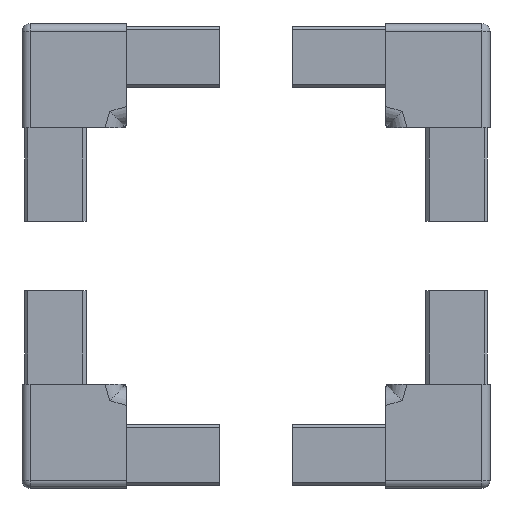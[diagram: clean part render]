
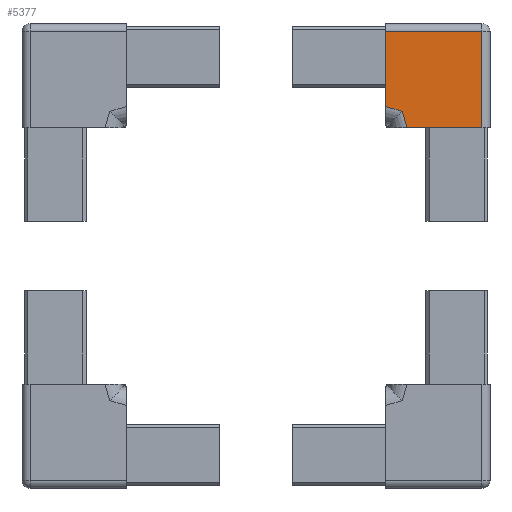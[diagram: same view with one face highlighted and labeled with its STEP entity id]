
A CAD part, left-side view. The second image highlights one B-rep face of the part: STEP entity #5377.
In plain terms, the highlighted planar face has unit normal (-1, 0, 0) as drawn and (0, 0, -1) by its records, which use the part's own axes.
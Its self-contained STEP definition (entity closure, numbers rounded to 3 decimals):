
#108 = LINE ( 'NONE', #6447, #1028 ) ;
#170 = PLANE ( 'NONE',  #4386 ) ;
#255 = EDGE_CURVE ( 'NONE', #866, #1520, #6558, .T. ) ;
#257 = DIRECTION ( 'NONE',  ( 1., 0., 0. ) ) ;
#556 = CARTESIAN_POINT ( 'NONE',  ( 26.5, 9.5, -12.5 ) ) ;
#588 = DIRECTION ( 'NONE',  ( 0., 1., 0. ) ) ;
#666 = CARTESIAN_POINT ( 'NONE',  ( -9.5, 12.5, -12.5 ) ) ;
#702 = CARTESIAN_POINT ( 'NONE',  ( 20.381, -20.381, -12.5 ) ) ;
#778 = ORIENTED_EDGE ( 'NONE', *, *, #5247, .T. ) ;
#785 = VERTEX_POINT ( 'NONE', #2185 ) ;
#866 = VERTEX_POINT ( 'NONE', #702 ) ;
#892 = DIRECTION ( 'NONE',  ( 0.295, 0.955, 0. ) ) ;
#967 = EDGE_CURVE ( 'NONE', #785, #866, #4107, .T. ) ;
#1028 = VECTOR ( 'NONE', #588, 1000. ) ;
#1044 = VECTOR ( 'NONE', #892, 1000. ) ;
#1179 = VERTEX_POINT ( 'NONE', #556 ) ;
#1336 = ORIENTED_EDGE ( 'NONE', *, *, #967, .F. ) ;
#1353 = ORIENTED_EDGE ( 'NONE', *, *, #255, .F. ) ;
#1368 = DIRECTION ( 'NONE',  ( 0.955, 0.295, 0. ) ) ;
#1520 = VERTEX_POINT ( 'NONE', #3630 ) ;
#1572 = DIRECTION ( 'NONE',  ( -1., 0., 0. ) ) ;
#1607 = ORIENTED_EDGE ( 'NONE', *, *, #2122, .T. ) ;
#1636 = CARTESIAN_POINT ( 'NONE',  ( 26.5, -26.5, -12.5 ) ) ;
#1821 = LINE ( 'NONE', #1890, #2850 ) ;
#1890 = CARTESIAN_POINT ( 'NONE',  ( 26.5, 9.5, -12.5 ) ) ;
#2070 = CARTESIAN_POINT ( 'NONE',  ( -9.5, -26.5, -12.5 ) ) ;
#2122 = EDGE_CURVE ( 'NONE', #5990, #2787, #6369, .T. ) ;
#2185 = CARTESIAN_POINT ( 'NONE',  ( 18.49, -26.5, -12.5 ) ) ;
#2430 = CARTESIAN_POINT ( 'NONE',  ( 18.49, -26.5, -12.5 ) ) ;
#2469 = CARTESIAN_POINT ( 'NONE',  ( 20.381, -20.381, -12.5 ) ) ;
#2752 = DIRECTION ( 'NONE',  ( 0., 1., 0. ) ) ;
#2768 = DIRECTION ( 'NONE',  ( 0., 0., -1. ) ) ;
#2777 = EDGE_LOOP ( 'NONE', ( #1336, #778, #1607, #4573, #2779, #1353 ) ) ;
#2779 = ORIENTED_EDGE ( 'NONE', *, *, #6517, .F. ) ;
#2787 = VERTEX_POINT ( 'NONE', #6219 ) ;
#2850 = VECTOR ( 'NONE', #257, 1000. ) ;
#3048 = LINE ( 'NONE', #5229, #4820 ) ;
#3630 = CARTESIAN_POINT ( 'NONE',  ( 26.5, -18.49, -12.5 ) ) ;
#4107 = LINE ( 'NONE', #2430, #1044 ) ;
#4386 = AXIS2_PLACEMENT_3D ( 'NONE', #1636, #2768, #6347 ) ;
#4573 = ORIENTED_EDGE ( 'NONE', *, *, #4793, .T. ) ;
#4793 = EDGE_CURVE ( 'NONE', #2787, #1179, #1821, .T. ) ;
#4812 = FACE_OUTER_BOUND ( 'NONE', #2777, .T. ) ;
#4820 = VECTOR ( 'NONE', #1572, 1000. ) ;
#5229 = CARTESIAN_POINT ( 'NONE',  ( 26.5, -26.5, -12.5 ) ) ;
#5247 = EDGE_CURVE ( 'NONE', #785, #5990, #3048, .T. ) ;
#5377 = ADVANCED_FACE ( 'NONE', ( #4812 ), #170, .T. ) ;
#5957 = VECTOR ( 'NONE', #1368, 1000. ) ;
#5990 = VERTEX_POINT ( 'NONE', #2070 ) ;
#6219 = CARTESIAN_POINT ( 'NONE',  ( -9.5, 9.5, -12.5 ) ) ;
#6347 = DIRECTION ( 'NONE',  ( -1., 0., 0. ) ) ;
#6369 = LINE ( 'NONE', #666, #6465 ) ;
#6447 = CARTESIAN_POINT ( 'NONE',  ( 26.5, -26.5, -12.5 ) ) ;
#6465 = VECTOR ( 'NONE', #2752, 1000. ) ;
#6517 = EDGE_CURVE ( 'NONE', #1520, #1179, #108, .T. ) ;
#6558 = LINE ( 'NONE', #2469, #5957 ) ;
